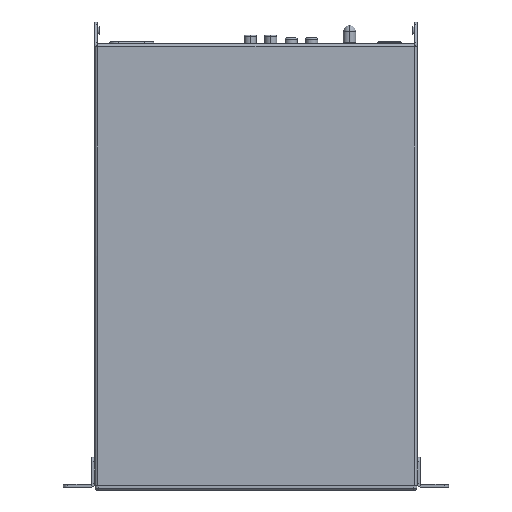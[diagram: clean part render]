
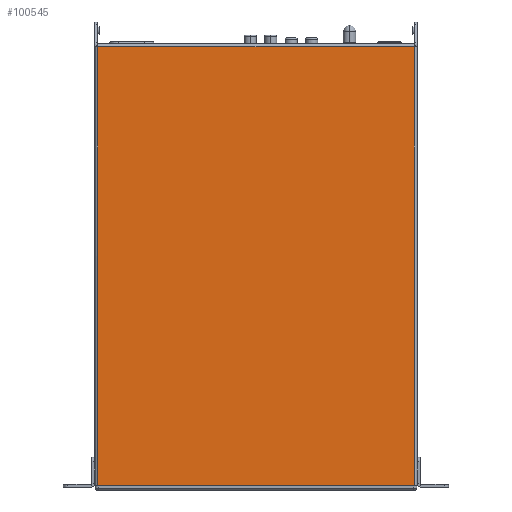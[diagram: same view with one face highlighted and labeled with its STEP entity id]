
A CAD part, front view. The second image highlights one B-rep face of the part: STEP entity #100545.
In plain terms, the highlighted planar face has unit normal (0, -1, 0).
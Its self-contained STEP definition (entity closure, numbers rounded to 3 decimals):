
#1204 = PLANE ( 'NONE',  #78893 ) ;
#4361 = VERTEX_POINT ( 'NONE', #132865 ) ;
#5050 = VERTEX_POINT ( 'NONE', #64053 ) ;
#6925 = B_SPLINE_CURVE_WITH_KNOTS ( 'NONE', 3,
 ( #16258, #81660, #22023, #80693 ),
 .UNSPECIFIED., .F., .F.,
 ( 4, 4 ),
 ( 0., 0. ),
 .UNSPECIFIED. ) ;
#11995 = CARTESIAN_POINT ( 'NONE',  ( 243.48, 169.671, 358.162 ) ) ;
#14648 = FACE_OUTER_BOUND ( 'NONE', #187947, .T. ) ;
#16258 = CARTESIAN_POINT ( 'NONE',  ( 27.18, 169.671, 58.259 ) ) ;
#20518 = VERTEX_POINT ( 'NONE', #100951 ) ;
#21279 = CARTESIAN_POINT ( 'NONE',  ( 243.48, 169.671, 58.162 ) ) ;
#22023 = CARTESIAN_POINT ( 'NONE',  ( 27.462, 169.671, 58.162 ) ) ;
#22045 = EDGE_CURVE ( 'NONE', #84055, #113479, #76563, .T. ) ;
#28571 = DIRECTION ( 'NONE',  ( 1., 0., 0. ) ) ;
#35058 = EDGE_CURVE ( 'NONE', #5050, #118498, #153090, .T. ) ;
#40322 = CARTESIAN_POINT ( 'NONE',  ( 243.049, 169.671, 58.162 ) ) ;
#44736 = EDGE_CURVE ( 'NONE', #113479, #5050, #78940, .T. ) ;
#50880 = CARTESIAN_POINT ( 'NONE',  ( 243.48, 169.671, 58.259 ) ) ;
#51026 = ORIENTED_EDGE ( 'NONE', *, *, #35058, .T. ) ;
#58427 = VECTOR ( 'NONE', #95365, 1000. ) ;
#59878 = CARTESIAN_POINT ( 'NONE',  ( 25.18, 169.671, 58.162 ) ) ;
#64053 = CARTESIAN_POINT ( 'NONE',  ( 243.48, 169.671, 58.259 ) ) ;
#76195 = LINE ( 'NONE', #123326, #151873 ) ;
#76563 = LINE ( 'NONE', #147800, #126010 ) ;
#78104 = DIRECTION ( 'NONE',  ( 0., 0., 1. ) ) ;
#78893 = AXIS2_PLACEMENT_3D ( 'NONE', #59878, #118605, #177244 ) ;
#78940 = B_SPLINE_CURVE_WITH_KNOTS ( 'NONE', 3,
 ( #182636, #123054, #154789, #50880 ),
 .UNSPECIFIED., .F., .F.,
 ( 4, 4 ),
 ( 0., 0. ),
 .UNSPECIFIED. ) ;
#80693 = CARTESIAN_POINT ( 'NONE',  ( 27.611, 169.671, 58.162 ) ) ;
#81660 = CARTESIAN_POINT ( 'NONE',  ( 27.315, 169.671, 58.195 ) ) ;
#84055 = VERTEX_POINT ( 'NONE', #134383 ) ;
#95365 = DIRECTION ( 'NONE',  ( 0., 0., 1. ) ) ;
#100545 = ADVANCED_FACE ( 'NONE', ( #14648 ), #1204, .T. ) ;
#100951 = CARTESIAN_POINT ( 'NONE',  ( 27.18, 169.671, 358.162 ) ) ;
#108897 = CARTESIAN_POINT ( 'NONE',  ( 243.48, 169.671, 358.162 ) ) ;
#109857 = LINE ( 'NONE', #108897, #146098 ) ;
#113479 = VERTEX_POINT ( 'NONE', #40322 ) ;
#118498 = VERTEX_POINT ( 'NONE', #11995 ) ;
#118605 = DIRECTION ( 'NONE',  ( 0., -1., 0. ) ) ;
#123054 = CARTESIAN_POINT ( 'NONE',  ( 243.199, 169.671, 58.162 ) ) ;
#123326 = CARTESIAN_POINT ( 'NONE',  ( 27.18, 169.671, 58.162 ) ) ;
#123514 = EDGE_CURVE ( 'NONE', #4361, #84055, #6925, .T. ) ;
#126010 = VECTOR ( 'NONE', #28571, 1000. ) ;
#129746 = EDGE_CURVE ( 'NONE', #4361, #20518, #76195, .T. ) ;
#132865 = CARTESIAN_POINT ( 'NONE',  ( 27.18, 169.671, 58.259 ) ) ;
#134383 = CARTESIAN_POINT ( 'NONE',  ( 27.611, 169.671, 58.162 ) ) ;
#138887 = ORIENTED_EDGE ( 'NONE', *, *, #123514, .T. ) ;
#143980 = ORIENTED_EDGE ( 'NONE', *, *, #129746, .F. ) ;
#146098 = VECTOR ( 'NONE', #182899, 1000. ) ;
#147800 = CARTESIAN_POINT ( 'NONE',  ( 25.18, 169.671, 58.162 ) ) ;
#148954 = EDGE_CURVE ( 'NONE', #118498, #20518, #109857, .T. ) ;
#149893 = ORIENTED_EDGE ( 'NONE', *, *, #22045, .T. ) ;
#151873 = VECTOR ( 'NONE', #78104, 1000. ) ;
#153090 = LINE ( 'NONE', #21279, #58427 ) ;
#154789 = CARTESIAN_POINT ( 'NONE',  ( 243.345, 169.671, 58.195 ) ) ;
#161269 = ORIENTED_EDGE ( 'NONE', *, *, #148954, .T. ) ;
#177244 = DIRECTION ( 'NONE',  ( 1., 0., 0. ) ) ;
#181196 = ORIENTED_EDGE ( 'NONE', *, *, #44736, .T. ) ;
#182636 = CARTESIAN_POINT ( 'NONE',  ( 243.049, 169.671, 58.162 ) ) ;
#182899 = DIRECTION ( 'NONE',  ( -1., 0., 0. ) ) ;
#187947 = EDGE_LOOP ( 'NONE', ( #149893, #181196, #51026, #161269, #143980, #138887 ) ) ;
